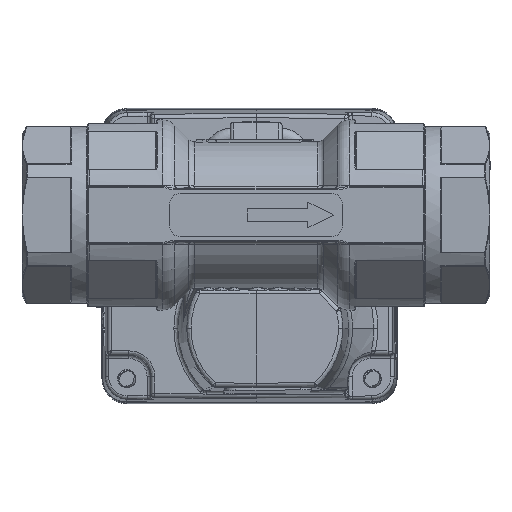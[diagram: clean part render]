
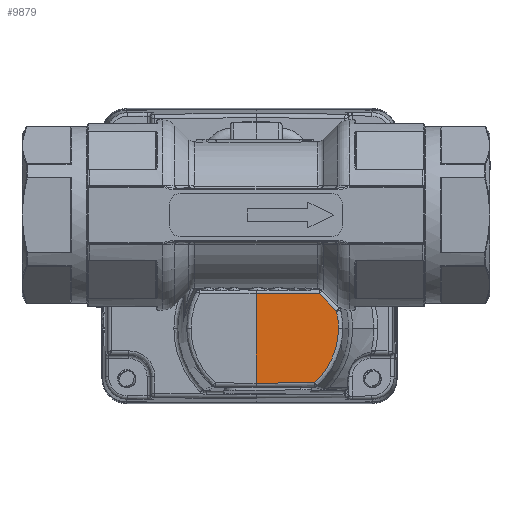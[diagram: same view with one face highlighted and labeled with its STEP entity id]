
A CAD part, front view. The second image highlights one B-rep face of the part: STEP entity #9879.
In plain terms, the highlighted planar face has unit normal (0.009, -1, 0).
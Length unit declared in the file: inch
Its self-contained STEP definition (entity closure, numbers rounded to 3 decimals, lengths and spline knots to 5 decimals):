
#7727 = EDGE_CURVE ( 'NONE', #51685, #25781, #123777, .T. ) ;
#9262 = VECTOR ( 'NONE', #72773, 39.37008 ) ;
#9879 = ADVANCED_FACE ( 'NONE', ( #26958 ), #29815, .T. ) ;
#14610 = VECTOR ( 'NONE', #67508, 39.37008 ) ;
#16244 =( BOUNDED_CURVE ( )  B_SPLINE_CURVE ( 3, ( #50631, #95242, #128824, #135678 ),
 .UNSPECIFIED., .F., .T. ) 
 B_SPLINE_CURVE_WITH_KNOTS ( ( 4, 4 ),
 ( 5.45103, 6.28319 ),
 .UNSPECIFIED. ) 
 CURVE ( )  GEOMETRIC_REPRESENTATION_ITEM ( )  RATIONAL_B_SPLINE_CURVE ( ( 1., 0.943, 0.943, 1. ) ) 
 REPRESENTATION_ITEM ( '' )  );
#19401 = CARTESIAN_POINT ( 'NONE',  ( 0.46561, -0.80344, -0.55753 ) ) ;
#21173 = EDGE_CURVE ( 'NONE', #86017, #51685, #97649, .T. ) ;
#22015 = EDGE_CURVE ( 'NONE', #55292, #105155, #44723, .T. ) ;
#24619 = ORIENTED_EDGE ( 'NONE', *, *, #7727, .T. ) ;
#25754 = ORIENTED_EDGE ( 'NONE', *, *, #143414, .T. ) ;
#25781 = VERTEX_POINT ( 'NONE', #50447 ) ;
#26958 = FACE_OUTER_BOUND ( 'NONE', #138213, .T. ) ;
#29815 = PLANE ( 'NONE',  #66051 ) ;
#30301 = B_SPLINE_CURVE_WITH_KNOTS ( 'NONE', 3,
 ( #97060, #108735, #140852, #143744 ),
 .UNSPECIFIED., .F., .F.,
 ( 4, 4 ),
 ( 0., 0.00366 ),
 .UNSPECIFIED. ) ;
#36090 = CARTESIAN_POINT ( 'NONE',  ( 0.00069, -0.8075, -0.45475 ) ) ;
#37839 = ORIENTED_EDGE ( 'NONE', *, *, #22015, .T. ) ;
#37908 = CARTESIAN_POINT ( 'NONE',  ( 0.00047, -0.8075, -0.00013 ) ) ;
#42067 = CARTESIAN_POINT ( 'NONE',  ( 0.00047, -0.8075, -0.45475 ) ) ;
#44723 =( BOUNDED_CURVE ( )  B_SPLINE_CURVE ( 3, ( #75700, #64723, #119564, #19401 ),
 .UNSPECIFIED., .F., .T. ) 
 B_SPLINE_CURVE_WITH_KNOTS ( ( 4, 4 ),
 ( 0., 0.23113 ),
 .UNSPECIFIED. ) 
 CURVE ( )  GEOMETRIC_REPRESENTATION_ITEM ( )  RATIONAL_B_SPLINE_CURVE ( ( 1., 0.996, 0.996, 1. ) ) 
 REPRESENTATION_ITEM ( '' )  );
#48174 = ORIENTED_EDGE ( 'NONE', *, *, #80794, .T. ) ;
#50447 = CARTESIAN_POINT ( 'NONE',  ( 0.00069, -0.8075, -0.97306 ) ) ;
#50631 = CARTESIAN_POINT ( 'NONE',  ( 0.33773, -0.80456, -0.97017 ) ) ;
#51685 = VERTEX_POINT ( 'NONE', #36090 ) ;
#55292 = VERTEX_POINT ( 'NONE', #82575 ) ;
#64723 = CARTESIAN_POINT ( 'NONE',  ( 0.47694, -0.80334, -0.62223 ) ) ;
#66051 = AXIS2_PLACEMENT_3D ( 'NONE', #37908, #140198, #93542 ) ;
#66982 = CARTESIAN_POINT ( 'NONE',  ( 0.46561, -0.80344, -0.55753 ) ) ;
#67508 = DIRECTION ( 'NONE',  ( 0., 0., -1. ) ) ;
#72773 = DIRECTION ( 'NONE',  ( -1., -0.009, 0. ) ) ;
#75700 = CARTESIAN_POINT ( 'NONE',  ( 0.47694, -0.80334, -0.65513 ) ) ;
#79140 = DIRECTION ( 'NONE',  ( 1., 0.009, 0.009 ) ) ;
#80794 = EDGE_CURVE ( 'NONE', #101516, #55292, #16244, .T. ) ;
#81489 = EDGE_CURVE ( 'NONE', #25781, #101516, #113488, .T. ) ;
#82575 = CARTESIAN_POINT ( 'NONE',  ( 0.47694, -0.80334, -0.65513 ) ) ;
#86017 = VERTEX_POINT ( 'NONE', #109954 ) ;
#86698 = CARTESIAN_POINT ( 'NONE',  ( 0.33773, -0.80456, -0.97017 ) ) ;
#88032 = CARTESIAN_POINT ( 'NONE',  ( 0.00069, -0.8075, -0.00013 ) ) ;
#93542 = DIRECTION ( 'NONE',  ( -1., -0.009, 0. ) ) ;
#95242 = CARTESIAN_POINT ( 'NONE',  ( 0.42774, -0.80377, -0.88821 ) ) ;
#96447 = ORIENTED_EDGE ( 'NONE', *, *, #21173, .T. ) ;
#97060 = CARTESIAN_POINT ( 'NONE',  ( 0.46561, -0.80344, -0.55753 ) ) ;
#97649 = LINE ( 'NONE', #42067, #9262 ) ;
#101516 = VERTEX_POINT ( 'NONE', #86698 ) ;
#105155 = VERTEX_POINT ( 'NONE', #66982 ) ;
#108735 = CARTESIAN_POINT ( 'NONE',  ( 0.43183, -0.80374, -0.52332 ) ) ;
#109954 = CARTESIAN_POINT ( 'NONE',  ( 0.3644, -0.80432, -0.45475 ) ) ;
#110624 = ORIENTED_EDGE ( 'NONE', *, *, #81489, .T. ) ;
#113488 = LINE ( 'NONE', #133964, #121269 ) ;
#119564 = CARTESIAN_POINT ( 'NONE',  ( 0.47314, -0.80338, -0.58955 ) ) ;
#121269 = VECTOR ( 'NONE', #79140, 39.37008 ) ;
#123777 = LINE ( 'NONE', #88032, #14610 ) ;
#128824 = CARTESIAN_POINT ( 'NONE',  ( 0.47694, -0.80334, -0.77687 ) ) ;
#133964 = CARTESIAN_POINT ( 'NONE',  ( 0.33638, -0.80457, -0.97018 ) ) ;
#135678 = CARTESIAN_POINT ( 'NONE',  ( 0.47694, -0.80334, -0.65513 ) ) ;
#138213 = EDGE_LOOP ( 'NONE', ( #96447, #24619, #110624, #48174, #37839, #25754 ) ) ;
#140198 = DIRECTION ( 'NONE',  ( 0.009, -1., 0. ) ) ;
#140852 = CARTESIAN_POINT ( 'NONE',  ( 0.39808, -0.80403, -0.48907 ) ) ;
#143414 = EDGE_CURVE ( 'NONE', #105155, #86017, #30301, .T. ) ;
#143744 = CARTESIAN_POINT ( 'NONE',  ( 0.3644, -0.80432, -0.45475 ) ) ;
